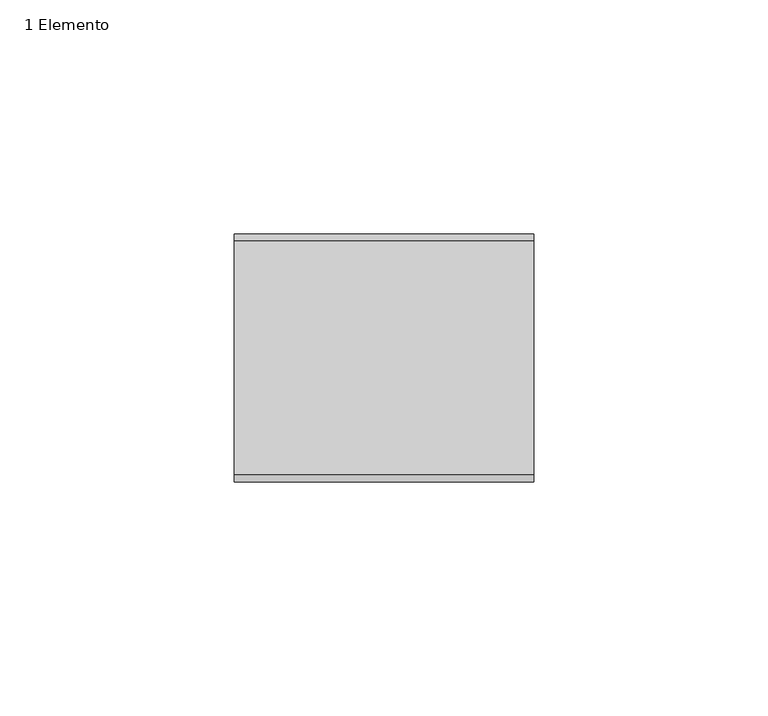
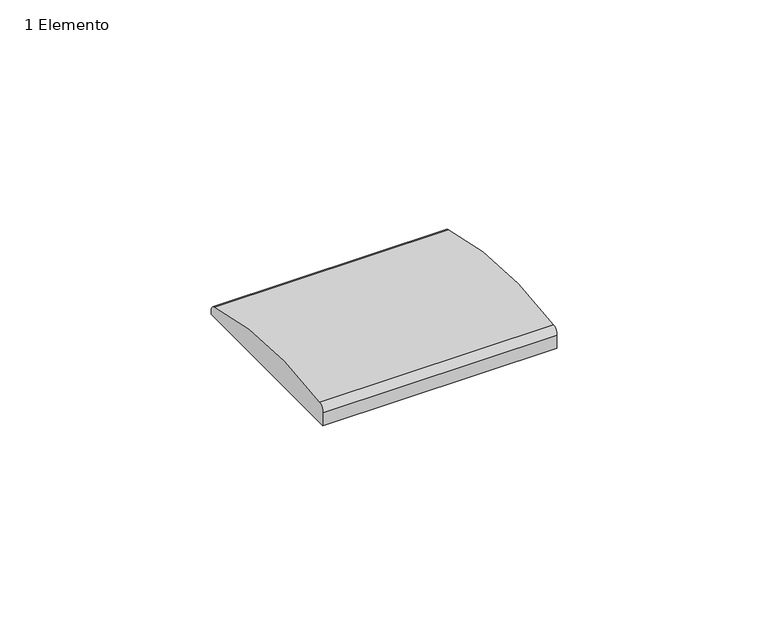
"""IFC4 building model written with IfcOpenShell, lengths in millimetres: proxy geometry, IrisPlus_AluminioMercurio_PulsadorLuz : 1 Elemento."""

from ifc_helpers import new_model, si_unit, point, frame, frame_2d, origin, place, context, project, spatial, polyline, circle_curve, trimmed, segment, composite_curve, outline, extrude, source, transform, mapped, element, save


def proxy_1_elemento_b6ed8073(model_context):
    return source(origin(), model_context, "Body", "SweptSolid", [
        extrude(outline(composite_curve([segment(polyline([(-26.5, 3.5), (-26.5, 7.25853)]), True, "CONTINUOUS"), segment(trimmed(circle_curve(frame_2d((-24.5, 7.25853)), 2.0), [point((-26.5, 7.25853))], [point((-24.864469, 9.2250402))], False, "CARTESIAN"), True, "CONTINUOUS"), segment(trimmed(circle_curve(frame_2d((-5.5476114, -95.0)), 106.0), [point((-24.864469, 9.2250402))], [point((25.0778387, 6.479465))], False, "CARTESIAN"), True, "CONTINUOUS"), segment(trimmed(circle_curve(frame_2d((24.5, 4.5647581)), 2.0), [point((25.0778387, 6.479465))], [point((26.5, 4.5647581))], False, "CARTESIAN"), True, "CONTINUOUS"), segment(polyline([(26.5, 4.5647581), (26.5, 3.5), (-26.5, 3.5)]), True, "CONTINUOUS")], self_intersect=False)), frame((-32.0, 0.0, 0.0), z_axis=(1.0, 0.0, 0.0), x_axis=(0.0, 1.0, 0.0)), (0.0, 0.0, 1.0), 64.0),
    ])


if __name__ == "__main__":
    model = new_model("IFC4")
    model_context = context("Model", 3, world=origin())
    ifc_project = project(units=[si_unit("LENGTHUNIT", "METRE", prefix="MILLI")], contexts=[model_context])
    site = spatial("IfcSite", under=ifc_project)
    building = spatial("IfcBuilding", under=site)
    placement = place(None, origin())
    proxy_1_elemento_shape = proxy_1_elemento_b6ed8073(model_context)
    element("IfcBuildingElementProxy", 1, Name="IrisPlus_AluminioMercurio_PulsadorLuz : 1 Elemento", ObjectType="IrisPlus_AluminioMercurio_PulsadorLuz : 1 Elemento", at=placement, inside=building, context=model_context, shape_type="MappedRepresentation", body=[
        mapped(proxy_1_elemento_shape, transform((0.0, 0.0, 0.0), x_axis=(1.0, 0.0, 0.0), y_axis=(0.0, 1.0, 0.0), z_axis=(0.0, 0.0, 1.0))),
    ])
    save(model, "model.ifc")
